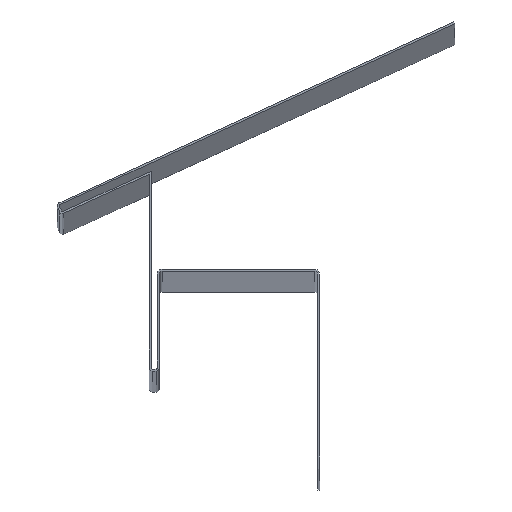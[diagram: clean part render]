
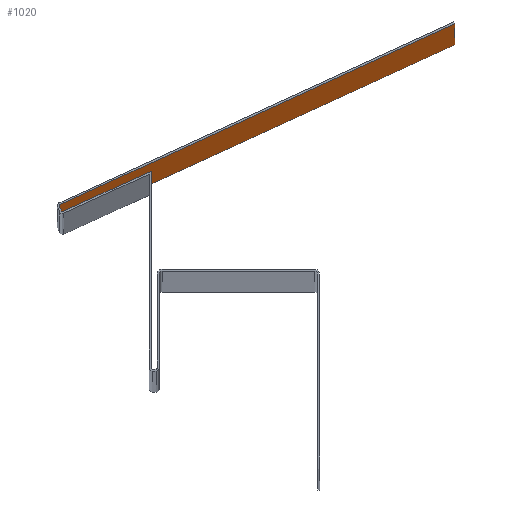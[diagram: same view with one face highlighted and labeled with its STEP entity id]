
A CAD part, top view. The second image highlights one B-rep face of the part: STEP entity #1020.
In plain terms, the highlighted planar face has unit normal (0.417, -0.909, 0).
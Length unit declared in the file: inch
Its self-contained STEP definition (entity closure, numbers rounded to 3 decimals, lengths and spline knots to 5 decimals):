
#9 = CARTESIAN_POINT ( 'NONE',  ( 3.05723, 1.50435, 120. ) ) ;
#15 = PLANE ( 'NONE',  #960 ) ;
#17 = CARTESIAN_POINT ( 'NONE',  ( -0.89286, -0.30557, 120. ) ) ;
#57 = LINE ( 'NONE', #1202, #1002 ) ;
#83 = DIRECTION ( 'NONE',  ( -0.909, -0.417, 0. ) ) ;
#191 = DIRECTION ( 'NONE',  ( 0., 0., -1. ) ) ;
#193 = CARTESIAN_POINT ( 'NONE',  ( -0.89286, -0.30557, 120. ) ) ;
#242 = DIRECTION ( 'NONE',  ( 0.417, -0.909, 0. ) ) ;
#257 = VERTEX_POINT ( 'NONE', #481 ) ;
#357 = EDGE_CURVE ( 'NONE', #673, #970, #965, .T. ) ;
#423 = LINE ( 'NONE', #193, #809 ) ;
#454 = EDGE_LOOP ( 'NONE', ( #711, #1250, #1056, #816 ) ) ;
#460 = FACE_OUTER_BOUND ( 'NONE', #454, .T. ) ;
#481 = CARTESIAN_POINT ( 'NONE',  ( -0.89286, -0.30557, 0. ) ) ;
#516 = EDGE_CURVE ( 'NONE', #1122, #257, #423, .T. ) ;
#632 = DIRECTION ( 'NONE',  ( -0.909, -0.417, 0. ) ) ;
#659 = EDGE_CURVE ( 'NONE', #673, #1122, #57, .T. ) ;
#673 = VERTEX_POINT ( 'NONE', #9 ) ;
#711 = ORIENTED_EDGE ( 'NONE', *, *, #883, .F. ) ;
#772 = LINE ( 'NONE', #1200, #914 ) ;
#809 = VECTOR ( 'NONE', #1033, 39.37008 ) ;
#816 = ORIENTED_EDGE ( 'NONE', *, *, #516, .T. ) ;
#820 = DIRECTION ( 'NONE',  ( 0.909, 0.417, 0. ) ) ;
#841 = VECTOR ( 'NONE', #191, 39.37008 ) ;
#883 = EDGE_CURVE ( 'NONE', #970, #257, #772, .T. ) ;
#914 = VECTOR ( 'NONE', #632, 39.37008 ) ;
#916 = CARTESIAN_POINT ( 'NONE',  ( -0.89286, -0.30557, 120. ) ) ;
#960 = AXIS2_PLACEMENT_3D ( 'NONE', #916, #242, #820 ) ;
#965 = LINE ( 'NONE', #1018, #841 ) ;
#970 = VERTEX_POINT ( 'NONE', #987 ) ;
#987 = CARTESIAN_POINT ( 'NONE',  ( 3.05723, 1.50435, 0. ) ) ;
#1002 = VECTOR ( 'NONE', #83, 39.37008 ) ;
#1018 = CARTESIAN_POINT ( 'NONE',  ( 3.05723, 1.50435, 120. ) ) ;
#1020 = ADVANCED_FACE ( 'NONE', ( #460 ), #15, .T. ) ;
#1033 = DIRECTION ( 'NONE',  ( 0., 0., -1. ) ) ;
#1056 = ORIENTED_EDGE ( 'NONE', *, *, #659, .T. ) ;
#1122 = VERTEX_POINT ( 'NONE', #17 ) ;
#1200 = CARTESIAN_POINT ( 'NONE',  ( -0.89286, -0.30557, 0. ) ) ;
#1202 = CARTESIAN_POINT ( 'NONE',  ( -0.89286, -0.30557, 120. ) ) ;
#1250 = ORIENTED_EDGE ( 'NONE', *, *, #357, .F. ) ;
